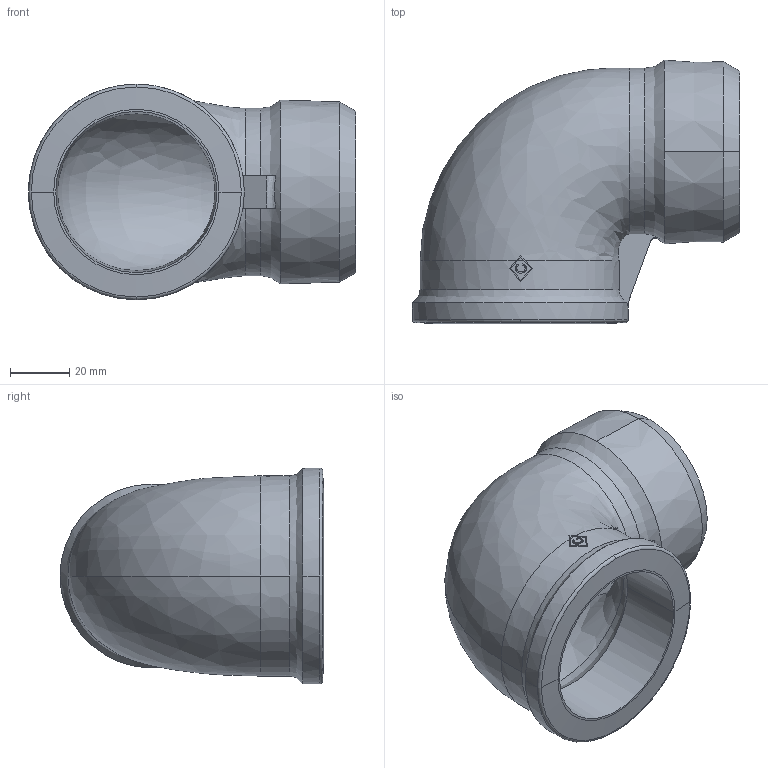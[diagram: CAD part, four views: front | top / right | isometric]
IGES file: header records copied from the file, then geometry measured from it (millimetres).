
Global section: file name: No Iges File Name specified; native system: AutoDesk Inventor R12.0; preprocessor: AutoDesk Inventor Iges Exporter R12.0; date: 20090916.100057; units: millimetre
Bounding box: 110.4 x 88.99 x 72.8 mm (x, y, z)
Volume: 117201.1 mm3; surface area: 45254.5 mm2
Topology: 1 solids, 1 shells, 52 faces, 180 edges, 130 vertices
Faces by surface type: bspline 26, plane 14, cone 6, cylinder 2, torus 2, revolution 2
